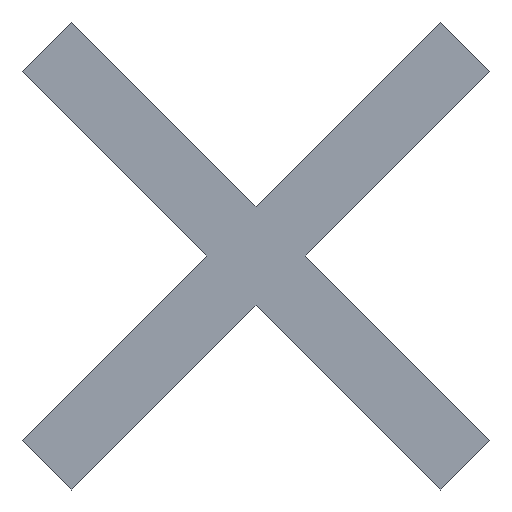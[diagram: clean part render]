
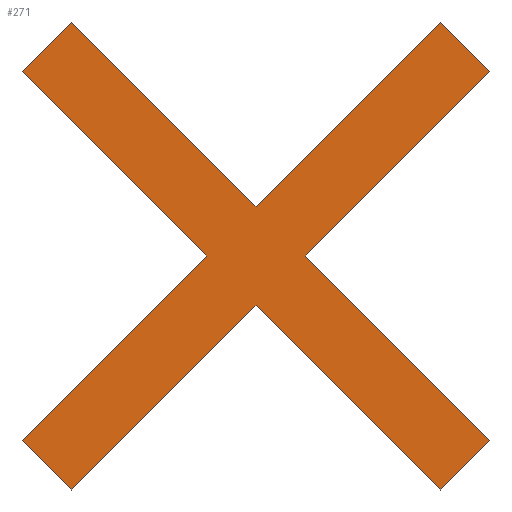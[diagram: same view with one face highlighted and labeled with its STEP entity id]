
A CAD part, front view. The second image highlights one B-rep face of the part: STEP entity #271.
In plain terms, the highlighted planar face has unit normal (0, -1, 0).
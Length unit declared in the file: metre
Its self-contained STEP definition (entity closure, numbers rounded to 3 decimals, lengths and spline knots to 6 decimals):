
#72=ORIENTED_EDGE('',*,*,#119,.F.);
#73=ORIENTED_EDGE('',*,*,#86,.F.);
#74=ORIENTED_EDGE('',*,*,#90,.F.);
#75=ORIENTED_EDGE('',*,*,#93,.F.);
#76=ORIENTED_EDGE('',*,*,#96,.F.);
#77=ORIENTED_EDGE('',*,*,#99,.F.);
#78=ORIENTED_EDGE('',*,*,#102,.F.);
#79=ORIENTED_EDGE('',*,*,#105,.F.);
#80=ORIENTED_EDGE('',*,*,#108,.F.);
#81=ORIENTED_EDGE('',*,*,#111,.F.);
#82=ORIENTED_EDGE('',*,*,#114,.F.);
#83=ORIENTED_EDGE('',*,*,#117,.F.);
#86=EDGE_CURVE('',#122,#123,#146,.F.);
#90=EDGE_CURVE('',#125,#122,#150,.F.);
#93=EDGE_CURVE('',#127,#125,#153,.F.);
#96=EDGE_CURVE('',#129,#127,#156,.F.);
#99=EDGE_CURVE('',#131,#129,#159,.F.);
#102=EDGE_CURVE('',#133,#131,#162,.F.);
#105=EDGE_CURVE('',#135,#133,#165,.F.);
#108=EDGE_CURVE('',#137,#135,#168,.F.);
#111=EDGE_CURVE('',#139,#137,#171,.F.);
#114=EDGE_CURVE('',#141,#139,#174,.F.);
#117=EDGE_CURVE('',#143,#141,#177,.F.);
#119=EDGE_CURVE('',#123,#143,#179,.F.);
#122=VERTEX_POINT('',#371);
#123=VERTEX_POINT('',#373);
#125=VERTEX_POINT('',#379);
#127=VERTEX_POINT('',#385);
#129=VERTEX_POINT('',#391);
#131=VERTEX_POINT('',#397);
#133=VERTEX_POINT('',#403);
#135=VERTEX_POINT('',#409);
#137=VERTEX_POINT('',#415);
#139=VERTEX_POINT('',#421);
#141=VERTEX_POINT('',#427);
#143=VERTEX_POINT('',#433);
#146=LINE('',#372,#182);
#150=LINE('',#380,#186);
#153=LINE('',#386,#189);
#156=LINE('',#392,#192);
#159=LINE('',#398,#195);
#162=LINE('',#404,#198);
#165=LINE('',#410,#201);
#168=LINE('',#416,#204);
#171=LINE('',#422,#207);
#174=LINE('',#428,#210);
#177=LINE('',#434,#213);
#179=LINE('',#437,#215);
#182=VECTOR('',#305,1.);
#186=VECTOR('',#311,1.);
#189=VECTOR('',#316,1.);
#192=VECTOR('',#321,1.);
#195=VECTOR('',#326,1.);
#198=VECTOR('',#331,1.);
#201=VECTOR('',#336,1.);
#204=VECTOR('',#341,1.);
#207=VECTOR('',#346,1.);
#210=VECTOR('',#351,1.);
#213=VECTOR('',#356,1.);
#215=VECTOR('',#360,1.);
#229=EDGE_LOOP('',(#72,#73,#74,#75,#76,#77,#78,#79,#80,#81,#82,#83));
#243=FACE_BOUND('',#229,.T.);
#257=PLANE('',#298);
#271=ADVANCED_FACE('',(#243),#257,.T.);
#298=AXIS2_PLACEMENT_3D('',#439,#363,#364);
#305=DIRECTION('',(0.707,0.,0.707));
#311=DIRECTION('',(0.707,0.,-0.707));
#316=DIRECTION('',(0.707,0.,0.707));
#321=DIRECTION('',(-0.707,0.,0.707));
#326=DIRECTION('',(0.707,0.,0.707));
#331=DIRECTION('',(-0.707,0.,0.707));
#336=DIRECTION('',(-0.707,0.,-0.707));
#341=DIRECTION('',(-0.707,0.,0.707));
#346=DIRECTION('',(-0.707,0.,-0.707));
#351=DIRECTION('',(0.707,0.,-0.707));
#356=DIRECTION('',(-0.707,0.,-0.707));
#360=DIRECTION('',(0.707,0.,-0.707));
#363=DIRECTION('',(0.,-1.,0.));
#364=DIRECTION('',(1.,0.,0.));
#371=CARTESIAN_POINT('',(0.179313,-0.0005,0.126882));
#372=CARTESIAN_POINT('',(0.17799,-0.0005,0.125559));
#373=CARTESIAN_POINT('',(0.176667,-0.0005,0.124236));
#379=CARTESIAN_POINT('',(0.181959,-0.0005,0.124236));
#380=CARTESIAN_POINT('',(0.180636,-0.0005,0.125559));
#385=CARTESIAN_POINT('',(0.182667,-0.0005,0.124943));
#386=CARTESIAN_POINT('',(0.182313,-0.0005,0.124589));
#391=CARTESIAN_POINT('',(0.18002,-0.0005,0.127589));
#392=CARTESIAN_POINT('',(0.181343,-0.0005,0.126266));
#397=CARTESIAN_POINT('',(0.182667,-0.0005,0.130236));
#398=CARTESIAN_POINT('',(0.181343,-0.0005,0.128913));
#403=CARTESIAN_POINT('',(0.181959,-0.0005,0.130943));
#404=CARTESIAN_POINT('',(0.182313,-0.0005,0.13059));
#409=CARTESIAN_POINT('',(0.179313,-0.0005,0.128297));
#410=CARTESIAN_POINT('',(0.180636,-0.0005,0.12962));
#415=CARTESIAN_POINT('',(0.176667,-0.0005,0.130943));
#416=CARTESIAN_POINT('',(0.17799,-0.0005,0.12962));
#421=CARTESIAN_POINT('',(0.175959,-0.0005,0.130236));
#422=CARTESIAN_POINT('',(0.176313,-0.0005,0.13059));
#427=CARTESIAN_POINT('',(0.178606,-0.0005,0.127589));
#428=CARTESIAN_POINT('',(0.177283,-0.0005,0.128913));
#433=CARTESIAN_POINT('',(0.175959,-0.0005,0.124943));
#434=CARTESIAN_POINT('',(0.177283,-0.0005,0.126266));
#437=CARTESIAN_POINT('',(0.176313,-0.0005,0.124589));
#439=CARTESIAN_POINT('',(0.179313,-0.0005,0.12759));
